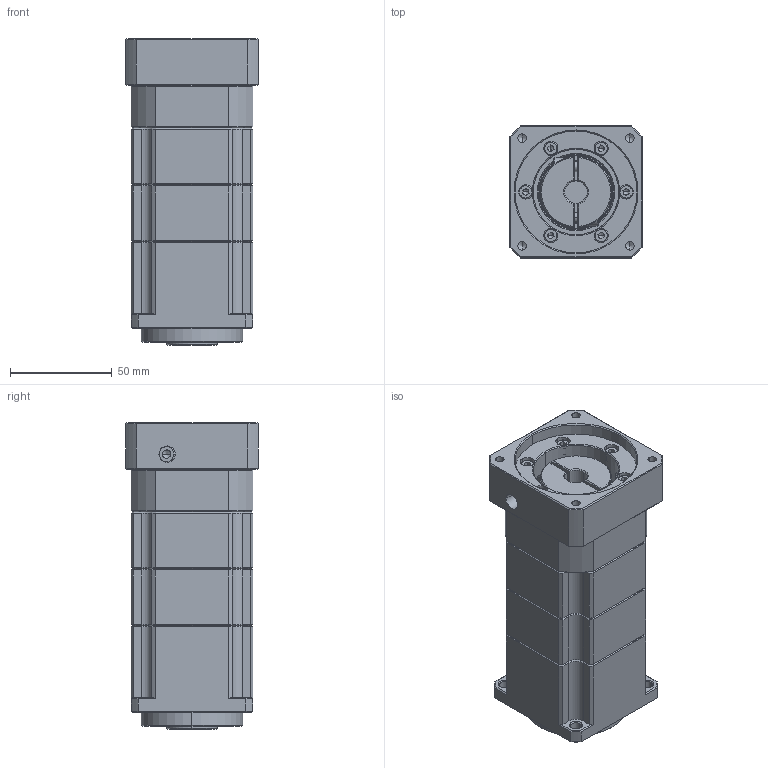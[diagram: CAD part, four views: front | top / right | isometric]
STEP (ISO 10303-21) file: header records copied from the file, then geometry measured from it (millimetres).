
FILE_DESCRIPTION (( 'STEP AP214' ), '1' );
FILE_NAME ('ZPB060-K16-L3-P1-11-60-75-M5.step', '2024-04-24T07:37:19', ( '' ), ( '' ), 'SwSTEP 2.0', 'SolidWorks 2016', '' );
FILE_SCHEMA (( 'AUTOMOTIVE_DESIGN' ));
Length unit declared in the file: millimetre
Products named in the file (1): ZPB060-K16-L3-P1-11-60-75-M5
Bounding box: 65 x 65 x 151 mm (x, y, z)
Volume: 440390.2 mm3; surface area: 86086.1 mm2
Topology: 16 solids, 17 shells, 2089 faces, 5791 edges, 3716 vertices
Faces by surface type: plane 1113, bspline 366, cylinder 273, cone 195, torus 96, sphere 46
Entity records: 105294 total; most frequent: CARTESIAN_POINT 32180, ORIENTED_EDGE 11280, DIRECTION 8877, EDGE_CURVE 5640, VERTEX_POINT 3647, VECTOR 3395, LINE 3395, AXIS2_PLACEMENT_3D 2741
